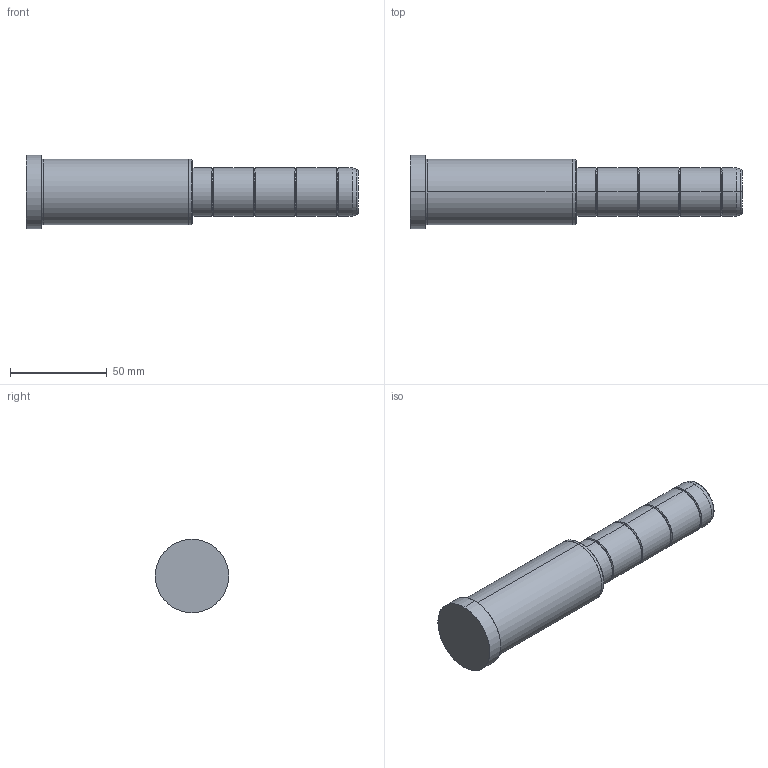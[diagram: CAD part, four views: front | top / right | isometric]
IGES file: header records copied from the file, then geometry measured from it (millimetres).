
Start section: SolidWorks IGES file using analytic representation for surfaces
Global section: file name: C:\Documents and Settings\kalite-mail\Desktop\IGS\D02\25\D02 - 25x86x86.IGS; native system: SolidWorks 2008; preprocessor: SolidWorks 2008; author: kalite-mail; date: 080617.084211; units: millimetre
Bounding box: 172 x 38 x 38 mm (x, y, z)
Surface area: 18356.9 mm2 (no closed solid volume)
Topology: 0 solids, 0 shells, 48 faces, 744 edges, 744 vertices
Faces by surface type: bspline 26, revolution 22
